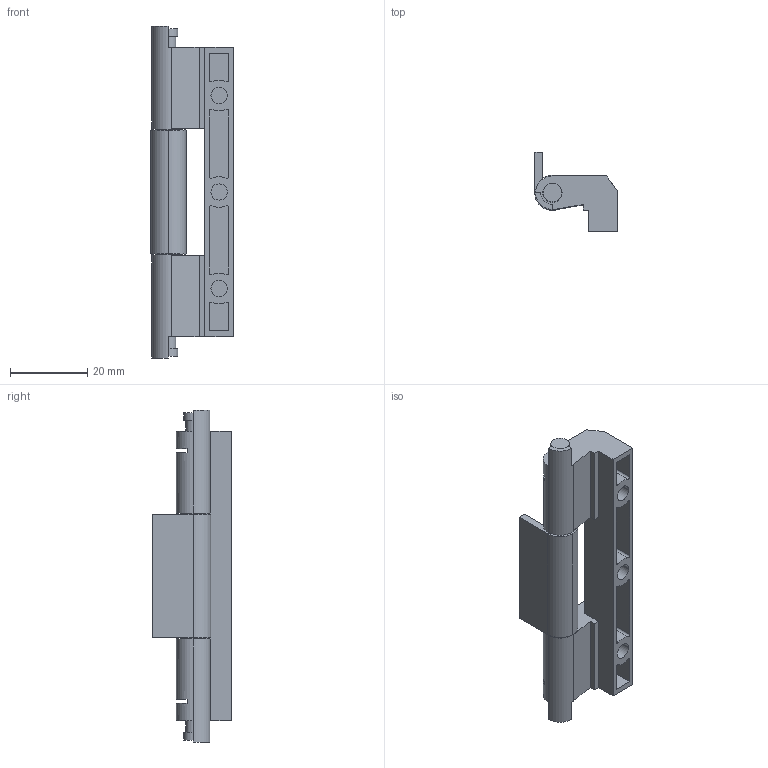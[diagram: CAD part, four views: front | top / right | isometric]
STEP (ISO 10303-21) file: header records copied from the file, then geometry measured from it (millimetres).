
FILE_DESCRIPTION (( 'STEP AP214' ), '1' );
FILE_NAME ('CL201-6軞蚾.STEP', '2023-06-30T08:18:32', ( '' ), ( '' ), 'SwSTEP 2.0', 'SolidWorks 2019', '' );
FILE_SCHEMA (( 'AUTOMOTIVE_DESIGN' ));
Length unit declared in the file: millimetre
Products named in the file (3): CL201-6軞蚾; CL201-6; CL201-7
Assembly tree (2 placements, depth 2):
  CL201-6軞蚾
    CL201-6
    CL201-7
Bounding box: 21.3 x 20.45 x 86 mm (x, y, z)
Volume: 11128.3 mm3; surface area: 10311 mm2
Topology: 4 solids, 4 shells, 131 faces, 324 edges, 212 vertices
Faces by surface type: plane 75, cylinder 52, cone 4
Entity records: 4052 total; most frequent: DIRECTION 722, CARTESIAN_POINT 672, ORIENTED_EDGE 648, EDGE_CURVE 324, AXIS2_PLACEMENT_3D 262, VERTEX_POINT 212, VECTOR 198, LINE 198
